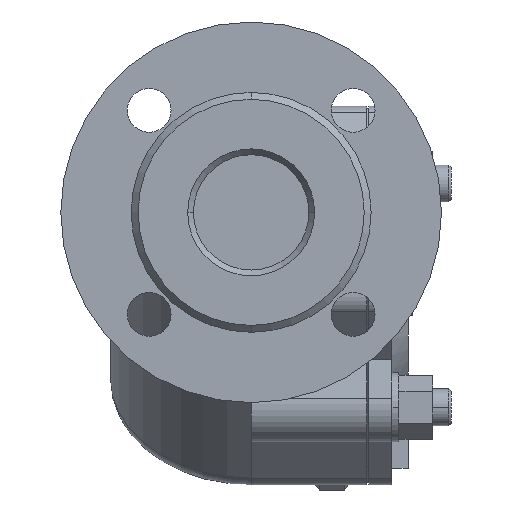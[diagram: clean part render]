
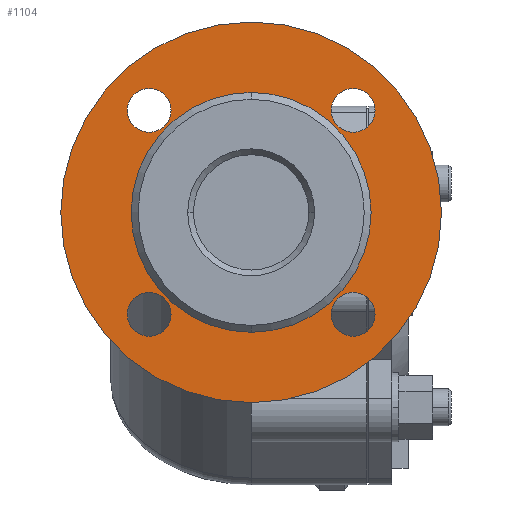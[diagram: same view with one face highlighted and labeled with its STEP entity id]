
A CAD part, left-side view. The second image highlights one B-rep face of the part: STEP entity #1104.
In plain terms, the highlighted planar face has unit normal (-1, 0, 0).
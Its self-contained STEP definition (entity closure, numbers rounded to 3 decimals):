
#1104=ADVANCED_FACE('',(#2163,#2164,#2165,#2166,#2167,#2168),#2169,.T.);
#2163=FACE_BOUND('',#3485,.T.);
#2164=FACE_BOUND('',#3486,.T.);
#2165=FACE_BOUND('',#3487,.T.);
#2166=FACE_BOUND('',#3488,.T.);
#2167=FACE_BOUND('',#3489,.T.);
#2168=FACE_OUTER_BOUND('',#3490,.T.);
#2169=PLANE('',#3491);
#3485=EDGE_LOOP('',(#5398,#5399));
#3486=EDGE_LOOP('',(#5400,#5401));
#3487=EDGE_LOOP('',(#5402,#5403));
#3488=EDGE_LOOP('',(#5404,#5405));
#3489=EDGE_LOOP('',(#5406,#5407));
#3490=EDGE_LOOP('',(#5408,#5409));
#3491=AXIS2_PLACEMENT_3D('',#5410,#5411,#5412);
#5398=ORIENTED_EDGE('',*,*,#7573,.T.);
#5399=ORIENTED_EDGE('',*,*,#7427,.T.);
#5400=ORIENTED_EDGE('',*,*,#7744,.T.);
#5401=ORIENTED_EDGE('',*,*,#7745,.T.);
#5402=ORIENTED_EDGE('',*,*,#7746,.T.);
#5403=ORIENTED_EDGE('',*,*,#7092,.T.);
#5404=ORIENTED_EDGE('',*,*,#7074,.T.);
#5405=ORIENTED_EDGE('',*,*,#7747,.T.);
#5406=ORIENTED_EDGE('',*,*,#7748,.T.);
#5407=ORIENTED_EDGE('',*,*,#7749,.T.);
#5408=ORIENTED_EDGE('',*,*,#7750,.F.);
#5409=ORIENTED_EDGE('',*,*,#7571,.F.);
#5410=CARTESIAN_POINT('',(-227.0,0.,0.0));
#5411=DIRECTION('',(-1.0,0.,0.0));
#5412=DIRECTION('',(0.,-1.0,0.0));
#7074=EDGE_CURVE('',#8245,#8249,#8251,.T.);
#7092=EDGE_CURVE('',#8283,#8281,#8284,.T.);
#7427=EDGE_CURVE('',#8848,#8852,#8854,.T.);
#7571=EDGE_CURVE('',#9078,#9076,#9080,.T.);
#7573=EDGE_CURVE('',#8852,#8848,#9082,.T.);
#7744=EDGE_CURVE('',#9326,#9327,#9328,.T.);
#7745=EDGE_CURVE('',#9327,#9326,#9329,.T.);
#7746=EDGE_CURVE('',#8281,#8283,#9330,.T.);
#7747=EDGE_CURVE('',#8249,#8245,#9331,.T.);
#7748=EDGE_CURVE('',#9332,#9333,#9334,.T.);
#7749=EDGE_CURVE('',#9333,#9332,#9335,.T.);
#7750=EDGE_CURVE('',#9076,#9078,#9336,.T.);
#8245=VERTEX_POINT('',#9924);
#8249=VERTEX_POINT('',#9929);
#8251=CIRCLE('',#9932,9.5);
#8281=VERTEX_POINT('',#9970);
#8283=VERTEX_POINT('',#9973);
#8284=CIRCLE('',#9974,9.5);
#8848=VERTEX_POINT('',#10794);
#8852=VERTEX_POINT('',#10799);
#8854=CIRCLE('',#10802,25.0);
#9076=VERTEX_POINT('',#11093);
#9078=VERTEX_POINT('',#11096);
#9080=CIRCLE('',#11099,82.5);
#9082=CIRCLE('',#11101,25.0);
#9326=VERTEX_POINT('',#11446);
#9327=VERTEX_POINT('',#11447);
#9328=CIRCLE('',#11448,9.5);
#9329=CIRCLE('',#11449,9.5);
#9330=CIRCLE('',#11450,9.5);
#9331=CIRCLE('',#11451,9.5);
#9332=VERTEX_POINT('',#11452);
#9333=VERTEX_POINT('',#11453);
#9334=CIRCLE('',#11454,9.5);
#9335=CIRCLE('',#11455,9.5);
#9336=CIRCLE('',#11456,82.5);
#9924=CARTESIAN_POINT('',(-227.0,-44.194,53.694));
#9929=CARTESIAN_POINT('',(-227.0,-44.194,34.694));
#9932=AXIS2_PLACEMENT_3D('',#12268,#12269,#12270);
#9970=CARTESIAN_POINT('',(-227.0,44.194,-34.694));
#9973=CARTESIAN_POINT('',(-227.0,44.194,-53.694));
#9974=AXIS2_PLACEMENT_3D('',#12292,#12293,#12294);
#10794=CARTESIAN_POINT('',(-227.0,-25.0,0.));
#10799=CARTESIAN_POINT('',(-227.0,25.0,0.));
#10802=AXIS2_PLACEMENT_3D('',#12752,#12753,#12754);
#11093=CARTESIAN_POINT('',(-227.0,-82.5,0.0));
#11096=CARTESIAN_POINT('',(-227.0,82.5,0.));
#11099=AXIS2_PLACEMENT_3D('',#12925,#12926,#12927);
#11101=AXIS2_PLACEMENT_3D('',#12928,#12929,#12930);
#11446=CARTESIAN_POINT('',(-227.0,-44.194,-34.694));
#11447=CARTESIAN_POINT('',(-227.0,-44.194,-53.694));
#11448=AXIS2_PLACEMENT_3D('',#13131,#13132,#13133);
#11449=AXIS2_PLACEMENT_3D('',#13134,#13135,#13136);
#11450=AXIS2_PLACEMENT_3D('',#13137,#13138,#13139);
#11451=AXIS2_PLACEMENT_3D('',#13140,#13141,#13142);
#11452=CARTESIAN_POINT('',(-227.0,44.194,53.694));
#11453=CARTESIAN_POINT('',(-227.0,44.194,34.694));
#11454=AXIS2_PLACEMENT_3D('',#13143,#13144,#13145);
#11455=AXIS2_PLACEMENT_3D('',#13146,#13147,#13148);
#11456=AXIS2_PLACEMENT_3D('',#13149,#13150,#13151);
#12268=CARTESIAN_POINT('',(-227.0,-44.194,44.194));
#12269=DIRECTION('',(1.0,0.,0.));
#12270=DIRECTION('',(0.0,0.,1.0));
#12292=CARTESIAN_POINT('',(-227.0,44.194,-44.194));
#12293=DIRECTION('',(1.0,0.,0.));
#12294=DIRECTION('',(0.0,0.,1.0));
#12752=CARTESIAN_POINT('',(-227.0,0.,0.0));
#12753=DIRECTION('',(1.0,0.,-0.0));
#12754=DIRECTION('',(0.,-1.0,0.0));
#12925=CARTESIAN_POINT('',(-227.0,0.,0.0));
#12926=DIRECTION('',(1.0,0.,-0.0));
#12927=DIRECTION('',(0.,-1.0,0.0));
#12928=CARTESIAN_POINT('',(-227.0,0.,0.0));
#12929=DIRECTION('',(1.0,0.,-0.0));
#12930=DIRECTION('',(0.,-1.0,0.0));
#13131=CARTESIAN_POINT('',(-227.0,-44.194,-44.194));
#13132=DIRECTION('',(1.0,0.,0.));
#13133=DIRECTION('',(0.0,0.,1.0));
#13134=CARTESIAN_POINT('',(-227.0,-44.194,-44.194));
#13135=DIRECTION('',(1.0,0.,0.));
#13136=DIRECTION('',(0.0,0.,1.0));
#13137=CARTESIAN_POINT('',(-227.0,44.194,-44.194));
#13138=DIRECTION('',(1.0,0.,0.));
#13139=DIRECTION('',(0.0,0.,1.0));
#13140=CARTESIAN_POINT('',(-227.0,-44.194,44.194));
#13141=DIRECTION('',(1.0,0.,0.));
#13142=DIRECTION('',(0.0,0.,1.0));
#13143=CARTESIAN_POINT('',(-227.0,44.194,44.194));
#13144=DIRECTION('',(1.0,0.,0.));
#13145=DIRECTION('',(0.0,0.,1.0));
#13146=CARTESIAN_POINT('',(-227.0,44.194,44.194));
#13147=DIRECTION('',(1.0,0.,0.));
#13148=DIRECTION('',(0.0,0.,1.0));
#13149=CARTESIAN_POINT('',(-227.0,0.,0.0));
#13150=DIRECTION('',(1.0,0.,-0.0));
#13151=DIRECTION('',(0.,-1.0,0.0));
